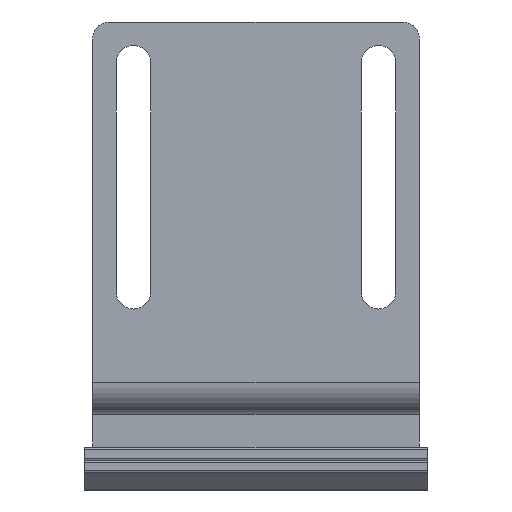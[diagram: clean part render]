
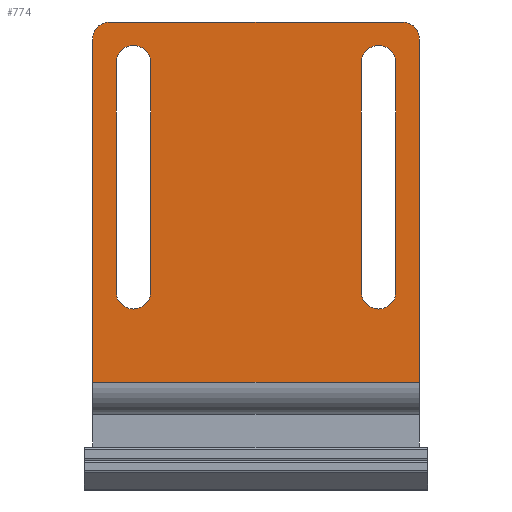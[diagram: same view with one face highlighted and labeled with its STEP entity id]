
A CAD part, front view. The second image highlights one B-rep face of the part: STEP entity #774.
In plain terms, the highlighted planar face has unit normal (0, -1, 0).
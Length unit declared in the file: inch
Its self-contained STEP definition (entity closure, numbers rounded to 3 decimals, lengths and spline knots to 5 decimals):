
#182=DIRECTION('',(0.,0.,1.));
#183=VECTOR('',#182,2.625);
#184=CARTESIAN_POINT('',(1.25,-5.,0.245));
#185=LINE('',#184,#183);
#186=DIRECTION('',(0.,0.,1.));
#187=VECTOR('',#186,1.75);
#188=CARTESIAN_POINT('',(-1.07,-5.,0.938));
#189=LINE('',#188,#187);
#190=CARTESIAN_POINT('',(-0.9375,-5.,0.938));
#191=DIRECTION('',(0.,1.,0.));
#192=DIRECTION('',(1.,0.,0.));
#193=AXIS2_PLACEMENT_3D('',#190,#191,#192);
#195=DIRECTION('',(0.,0.,-1.));
#196=VECTOR('',#195,1.75);
#197=CARTESIAN_POINT('',(-0.805,-5.,2.688));
#198=LINE('',#197,#196);
#199=CARTESIAN_POINT('',(-0.9375,-5.,2.688));
#200=DIRECTION('',(0.,1.,0.));
#201=DIRECTION('',(-1.,0.,0.));
#202=AXIS2_PLACEMENT_3D('',#199,#200,#201);
#204=CARTESIAN_POINT('',(0.9375,-5.,0.938));
#205=DIRECTION('',(0.,1.,0.));
#206=DIRECTION('',(1.,0.,0.));
#207=AXIS2_PLACEMENT_3D('',#204,#205,#206);
#209=DIRECTION('',(0.,0.,-1.));
#210=VECTOR('',#209,1.75);
#211=CARTESIAN_POINT('',(1.07,-5.,2.688));
#212=LINE('',#211,#210);
#213=CARTESIAN_POINT('',(0.9375,-5.,2.688));
#214=DIRECTION('',(0.,1.,0.));
#215=DIRECTION('',(-1.,0.,0.));
#216=AXIS2_PLACEMENT_3D('',#213,#214,#215);
#218=DIRECTION('',(0.,0.,1.));
#219=VECTOR('',#218,1.75);
#220=CARTESIAN_POINT('',(0.805,-5.,0.938));
#221=LINE('',#220,#219);
#222=CARTESIAN_POINT('',(1.12,-5.,2.87));
#223=DIRECTION('',(0.,-1.,0.));
#224=DIRECTION('',(1.,0.,0.));
#225=AXIS2_PLACEMENT_3D('',#222,#223,#224);
#227=DIRECTION('',(-1.,0.,0.));
#228=VECTOR('',#227,2.5);
#229=CARTESIAN_POINT('',(1.25,-5.,0.245));
#230=LINE('',#229,#228);
#231=DIRECTION('',(0.,0.,1.));
#232=VECTOR('',#231,2.625);
#233=CARTESIAN_POINT('',(-1.25,-5.,0.245));
#234=LINE('',#233,#232);
#235=CARTESIAN_POINT('',(-1.12,-5.,2.87));
#236=DIRECTION('',(0.,-1.,0.));
#237=DIRECTION('',(0.,0.,1.));
#238=AXIS2_PLACEMENT_3D('',#235,#236,#237);
#330=DIRECTION('',(1.,0.,0.));
#331=VECTOR('',#330,2.24);
#332=CARTESIAN_POINT('',(-1.12,-5.,3.));
#333=LINE('',#332,#331);
#374=CARTESIAN_POINT('',(-1.25,-5.,0.245));
#376=VERTEX_POINT('',#374);
#377=CARTESIAN_POINT('',(1.25,-5.,0.245));
#378=VERTEX_POINT('',#377);
#413=CARTESIAN_POINT('',(-1.07,-5.,0.938));
#414=CARTESIAN_POINT('',(-1.07,-5.,2.688));
#415=VERTEX_POINT('',#413);
#416=VERTEX_POINT('',#414);
#417=CARTESIAN_POINT('',(-0.805,-5.,2.688));
#418=VERTEX_POINT('',#417);
#419=CARTESIAN_POINT('',(-0.805,-5.,0.938));
#420=VERTEX_POINT('',#419);
#421=CARTESIAN_POINT('',(1.07,-5.,0.938));
#422=CARTESIAN_POINT('',(0.805,-5.,0.938));
#423=VERTEX_POINT('',#421);
#424=VERTEX_POINT('',#422);
#425=CARTESIAN_POINT('',(0.805,-5.,2.688));
#426=VERTEX_POINT('',#425);
#427=CARTESIAN_POINT('',(1.07,-5.,2.688));
#428=VERTEX_POINT('',#427);
#445=CARTESIAN_POINT('',(1.25,-5.,2.87));
#446=CARTESIAN_POINT('',(1.12,-5.,3.));
#447=VERTEX_POINT('',#445);
#448=VERTEX_POINT('',#446);
#457=CARTESIAN_POINT('',(-1.12,-5.,3.));
#458=VERTEX_POINT('',#457);
#459=CARTESIAN_POINT('',(-1.25,-5.,2.87));
#460=VERTEX_POINT('',#459);
#737=CARTESIAN_POINT('',(-1.25,-5.,0.));
#738=DIRECTION('',(0.,-1.,0.));
#739=DIRECTION('',(1.,0.,0.));
#740=AXIS2_PLACEMENT_3D('',#737,#738,#739);
#741=PLANE('',#740);
#742=ORIENTED_EDGE('',*,*,#727,.F.);
#743=ORIENTED_EDGE('',*,*,#717,.F.);
#745=ORIENTED_EDGE('',*,*,#744,.T.);
#747=ORIENTED_EDGE('',*,*,#746,.T.);
#749=ORIENTED_EDGE('',*,*,#748,.F.);
#751=ORIENTED_EDGE('',*,*,#750,.T.);
#752=EDGE_LOOP('',(#742,#743,#745,#747,#749,#751));
#753=FACE_OUTER_BOUND('',#752,.F.);
#755=ORIENTED_EDGE('',*,*,#754,.F.);
#757=ORIENTED_EDGE('',*,*,#756,.F.);
#759=ORIENTED_EDGE('',*,*,#758,.F.);
#761=ORIENTED_EDGE('',*,*,#760,.F.);
#762=EDGE_LOOP('',(#755,#757,#759,#761));
#763=FACE_BOUND('',#762,.F.);
#765=ORIENTED_EDGE('',*,*,#764,.F.);
#767=ORIENTED_EDGE('',*,*,#766,.F.);
#769=ORIENTED_EDGE('',*,*,#768,.F.);
#771=ORIENTED_EDGE('',*,*,#770,.F.);
#772=EDGE_LOOP('',(#765,#767,#769,#771));
#773=FACE_BOUND('',#772,.F.);
#194=CIRCLE('',#193,0.1325);
#203=CIRCLE('',#202,0.1325);
#208=CIRCLE('',#207,0.1325);
#217=CIRCLE('',#216,0.1325);
#226=CIRCLE('',#225,0.13);
#239=CIRCLE('',#238,0.13);
#717=EDGE_CURVE('',#378,#447,#185,.T.);
#727=EDGE_CURVE('',#447,#448,#226,.T.);
#744=EDGE_CURVE('',#378,#376,#230,.T.);
#746=EDGE_CURVE('',#376,#460,#234,.T.);
#748=EDGE_CURVE('',#458,#460,#239,.T.);
#750=EDGE_CURVE('',#458,#448,#333,.T.);
#754=EDGE_CURVE('',#423,#424,#208,.T.);
#756=EDGE_CURVE('',#428,#423,#212,.T.);
#758=EDGE_CURVE('',#426,#428,#217,.T.);
#760=EDGE_CURVE('',#424,#426,#221,.T.);
#764=EDGE_CURVE('',#415,#416,#189,.T.);
#766=EDGE_CURVE('',#420,#415,#194,.T.);
#768=EDGE_CURVE('',#418,#420,#198,.T.);
#770=EDGE_CURVE('',#416,#418,#203,.T.);
#774=ADVANCED_FACE('',(#753,#763,#773),#741,.T.);
